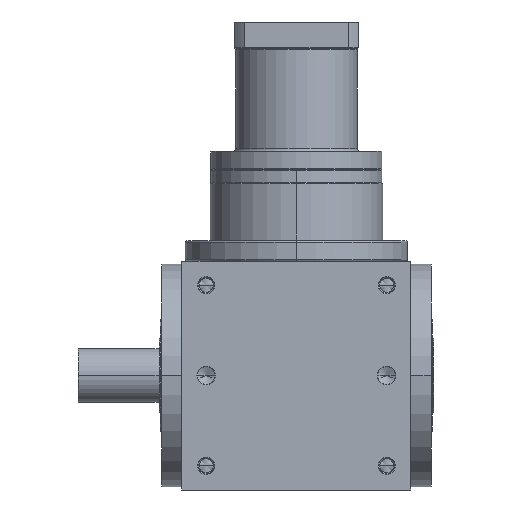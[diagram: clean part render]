
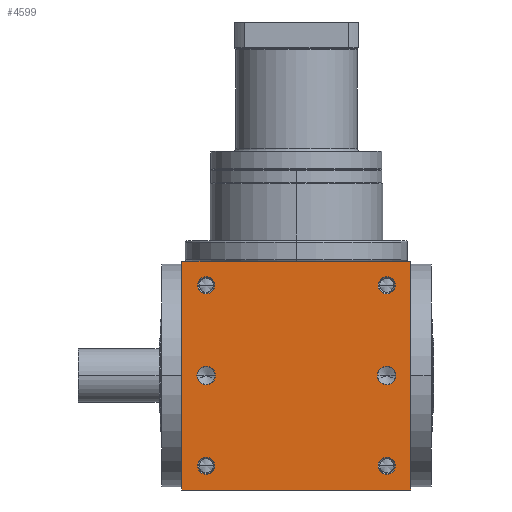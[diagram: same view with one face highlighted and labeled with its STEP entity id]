
A CAD part, front view. The second image highlights one B-rep face of the part: STEP entity #4599.
In plain terms, the highlighted planar face has unit normal (0, -1, 0).
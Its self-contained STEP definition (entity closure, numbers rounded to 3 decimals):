
#5=DIRECTION('',(1.,0.,0.));
#6=VECTOR('',#5,170.);
#7=CARTESIAN_POINT('',(-85.,-85.,-85.));
#8=LINE('',#7,#6);
#155=DIRECTION('',(0.,0.,1.));
#156=VECTOR('',#155,170.);
#157=CARTESIAN_POINT('',(85.,-85.,-85.));
#158=LINE('',#157,#156);
#209=DIRECTION('',(0.,0.,1.));
#210=VECTOR('',#209,170.);
#211=CARTESIAN_POINT('',(-85.,-85.,-85.));
#212=LINE('',#211,#210);
#213=CARTESIAN_POINT('',(67.,-85.,67.));
#214=DIRECTION('',(0.,1.,0.));
#215=DIRECTION('',(-1.,0.,0.));
#216=AXIS2_PLACEMENT_3D('',#213,#214,#215);
#218=CARTESIAN_POINT('',(67.,-85.,67.));
#219=DIRECTION('',(0.,1.,0.));
#220=DIRECTION('',(1.,0.,0.));
#221=AXIS2_PLACEMENT_3D('',#218,#219,#220);
#223=CARTESIAN_POINT('',(-67.,-85.,67.));
#224=DIRECTION('',(0.,1.,0.));
#225=DIRECTION('',(-1.,0.,0.));
#226=AXIS2_PLACEMENT_3D('',#223,#224,#225);
#228=CARTESIAN_POINT('',(-67.,-85.,67.));
#229=DIRECTION('',(0.,1.,0.));
#230=DIRECTION('',(1.,0.,0.));
#231=AXIS2_PLACEMENT_3D('',#228,#229,#230);
#233=CARTESIAN_POINT('',(67.,-85.,-67.));
#234=DIRECTION('',(0.,1.,0.));
#235=DIRECTION('',(-1.,0.,0.));
#236=AXIS2_PLACEMENT_3D('',#233,#234,#235);
#238=CARTESIAN_POINT('',(67.,-85.,-67.));
#239=DIRECTION('',(0.,1.,0.));
#240=DIRECTION('',(1.,0.,0.));
#241=AXIS2_PLACEMENT_3D('',#238,#239,#240);
#243=CARTESIAN_POINT('',(-67.,-85.,-67.));
#244=DIRECTION('',(0.,1.,0.));
#245=DIRECTION('',(-1.,0.,0.));
#246=AXIS2_PLACEMENT_3D('',#243,#244,#245);
#248=CARTESIAN_POINT('',(-67.,-85.,-67.));
#249=DIRECTION('',(0.,1.,0.));
#250=DIRECTION('',(1.,0.,0.));
#251=AXIS2_PLACEMENT_3D('',#248,#249,#250);
#253=CARTESIAN_POINT('',(-67.,-85.,0.));
#254=DIRECTION('',(0.,1.,0.));
#255=DIRECTION('',(1.,0.,0.));
#256=AXIS2_PLACEMENT_3D('',#253,#254,#255);
#258=CARTESIAN_POINT('',(-67.,-85.,0.));
#259=DIRECTION('',(0.,1.,0.));
#260=DIRECTION('',(-1.,0.,0.));
#261=AXIS2_PLACEMENT_3D('',#258,#259,#260);
#263=CARTESIAN_POINT('',(67.,-85.,0.));
#264=DIRECTION('',(0.,1.,0.));
#265=DIRECTION('',(1.,0.,0.));
#266=AXIS2_PLACEMENT_3D('',#263,#264,#265);
#268=CARTESIAN_POINT('',(67.,-85.,0.));
#269=DIRECTION('',(0.,1.,0.));
#270=DIRECTION('',(-1.,0.,0.));
#271=AXIS2_PLACEMENT_3D('',#268,#269,#270);
#285=DIRECTION('',(1.,0.,0.));
#286=VECTOR('',#285,170.);
#287=CARTESIAN_POINT('',(-85.,-85.,85.));
#288=LINE('',#287,#286);
#3700=CARTESIAN_POINT('',(-85.,-85.,-85.));
#3702=VERTEX_POINT('',#3700);
#3703=CARTESIAN_POINT('',(85.,-85.,-85.));
#3704=VERTEX_POINT('',#3703);
#3708=CARTESIAN_POINT('',(-85.,-85.,85.));
#3710=VERTEX_POINT('',#3708);
#3711=CARTESIAN_POINT('',(85.,-85.,85.));
#3712=VERTEX_POINT('',#3711);
#3879=CARTESIAN_POINT('',(60.65,-85.,67.));
#3880=CARTESIAN_POINT('',(73.35,-85.,67.));
#3881=VERTEX_POINT('',#3879);
#3882=VERTEX_POINT('',#3880);
#3887=CARTESIAN_POINT('',(-73.35,-85.,67.));
#3888=CARTESIAN_POINT('',(-60.65,-85.,67.));
#3889=VERTEX_POINT('',#3887);
#3890=VERTEX_POINT('',#3888);
#3895=CARTESIAN_POINT('',(60.65,-85.,-67.));
#3896=CARTESIAN_POINT('',(73.35,-85.,-67.));
#3897=VERTEX_POINT('',#3895);
#3898=VERTEX_POINT('',#3896);
#3903=CARTESIAN_POINT('',(-73.35,-85.,-67.));
#3904=CARTESIAN_POINT('',(-60.65,-85.,-67.));
#3905=VERTEX_POINT('',#3903);
#3906=VERTEX_POINT('',#3904);
#4245=CARTESIAN_POINT('',(-60.15,-85.,
0.));
#4246=CARTESIAN_POINT('',(-73.85,-85.,
0.));
#4247=VERTEX_POINT('',#4245);
#4248=VERTEX_POINT('',#4246);
#4253=CARTESIAN_POINT('',(73.85,-85.,0.));
#4254=CARTESIAN_POINT('',(60.15,-85.,0.));
#4255=VERTEX_POINT('',#4253);
#4256=VERTEX_POINT('',#4254);
#4551=CARTESIAN_POINT('',(-85.,-85.,-85.));
#4552=DIRECTION('',(0.,-1.,0.));
#4553=DIRECTION('',(1.,0.,0.));
#4554=AXIS2_PLACEMENT_3D('',#4551,#4552,#4553);
#4555=PLANE('',#4554);
#4556=ORIENTED_EDGE('',*,*,#4391,.F.);
#4557=ORIENTED_EDGE('',*,*,#4434,.T.);
#4559=ORIENTED_EDGE('',*,*,#4558,.T.);
#4560=ORIENTED_EDGE('',*,*,#4513,.F.);
#4561=EDGE_LOOP('',(#4556,#4557,#4559,#4560));
#4562=FACE_OUTER_BOUND('',#4561,.F.);
#4564=ORIENTED_EDGE('',*,*,#4563,.F.);
#4566=ORIENTED_EDGE('',*,*,#4565,.F.);
#4567=EDGE_LOOP('',(#4564,#4566));
#4568=FACE_BOUND('',#4567,.F.);
#4570=ORIENTED_EDGE('',*,*,#4569,.F.);
#4572=ORIENTED_EDGE('',*,*,#4571,.F.);
#4573=EDGE_LOOP('',(#4570,#4572));
#4574=FACE_BOUND('',#4573,.F.);
#4576=ORIENTED_EDGE('',*,*,#4575,.F.);
#4578=ORIENTED_EDGE('',*,*,#4577,.F.);
#4579=EDGE_LOOP('',(#4576,#4578));
#4580=FACE_BOUND('',#4579,.F.);
#4582=ORIENTED_EDGE('',*,*,#4581,.F.);
#4584=ORIENTED_EDGE('',*,*,#4583,.F.);
#4585=EDGE_LOOP('',(#4582,#4584));
#4586=FACE_BOUND('',#4585,.F.);
#4588=ORIENTED_EDGE('',*,*,#4587,.F.);
#4590=ORIENTED_EDGE('',*,*,#4589,.F.);
#4591=EDGE_LOOP('',(#4588,#4590));
#4592=FACE_BOUND('',#4591,.F.);
#4594=ORIENTED_EDGE('',*,*,#4593,.F.);
#4596=ORIENTED_EDGE('',*,*,#4595,.F.);
#4597=EDGE_LOOP('',(#4594,#4596));
#4598=FACE_BOUND('',#4597,.F.);
#4599=ADVANCED_FACE('',(#4562,#4568,#4574,#4580,#4586,#4592,#4598),#4555,.T.);
#217=CIRCLE('',#216,6.35);
#222=CIRCLE('',#221,6.35);
#227=CIRCLE('',#226,6.35);
#232=CIRCLE('',#231,6.35);
#237=CIRCLE('',#236,6.35);
#242=CIRCLE('',#241,6.35);
#247=CIRCLE('',#246,6.35);
#252=CIRCLE('',#251,6.35);
#257=CIRCLE('',#256,6.85);
#262=CIRCLE('',#261,6.85);
#267=CIRCLE('',#266,6.85);
#272=CIRCLE('',#271,6.85);
#4391=EDGE_CURVE('',#3702,#3704,#8,.T.);
#4434=EDGE_CURVE('',#3702,#3710,#212,.T.);
#4513=EDGE_CURVE('',#3704,#3712,#158,.T.);
#4558=EDGE_CURVE('',#3710,#3712,#288,.T.);
#4563=EDGE_CURVE('',#3881,#3882,#217,.T.);
#4565=EDGE_CURVE('',#3882,#3881,#222,.T.);
#4569=EDGE_CURVE('',#3889,#3890,#227,.T.);
#4571=EDGE_CURVE('',#3890,#3889,#232,.T.);
#4575=EDGE_CURVE('',#3897,#3898,#237,.T.);
#4577=EDGE_CURVE('',#3898,#3897,#242,.T.);
#4581=EDGE_CURVE('',#3905,#3906,#247,.T.);
#4583=EDGE_CURVE('',#3906,#3905,#252,.T.);
#4587=EDGE_CURVE('',#4247,#4248,#257,.T.);
#4589=EDGE_CURVE('',#4248,#4247,#262,.T.);
#4593=EDGE_CURVE('',#4255,#4256,#267,.T.);
#4595=EDGE_CURVE('',#4256,#4255,#272,.T.);
